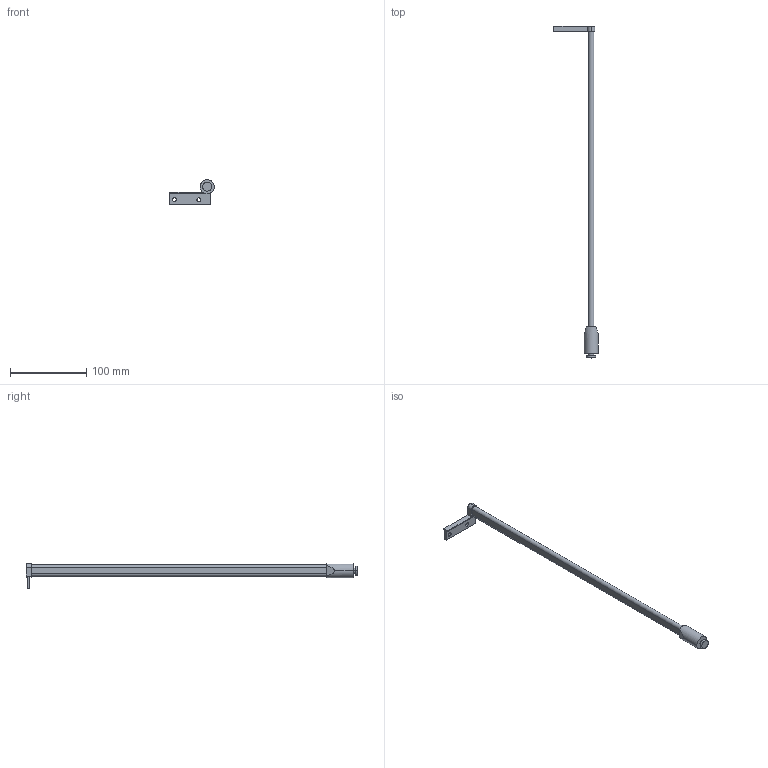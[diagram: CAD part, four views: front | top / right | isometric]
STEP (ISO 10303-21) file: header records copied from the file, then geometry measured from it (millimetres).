
FILE_DESCRIPTION (( 'STEP AP214' ), '1' );
FILE_NAME ('DWD-XP_Reling-Haengeregister_NL440_rechts.step', '2010-10-06T11:19:35', ( 'grass' ), ( '' ), 'SwSTEP 2.0', 'SolidWorks 2010', '' );
FILE_SCHEMA (( 'AUTOMOTIVE_DESIGN' ));
Length unit declared in the file: millimetre
Products named in the file (1): DWD-XP_Reling-Haengeregister_NL440_rechts
Bounding box: 58.1 x 434.3 x 32.15 mm (x, y, z)
Volume: 49654.4 mm3; surface area: 20354 mm2
Topology: 1 solids, 1 shells, 34 faces, 84 edges, 56 vertices
Faces by surface type: plane 20, cylinder 14
Entity records: 1058 total; most frequent: CARTESIAN_POINT 187, DIRECTION 178, ORIENTED_EDGE 168, EDGE_CURVE 84, AXIS2_PLACEMENT_3D 63, VERTEX_POINT 56, VECTOR 52, LINE 52
